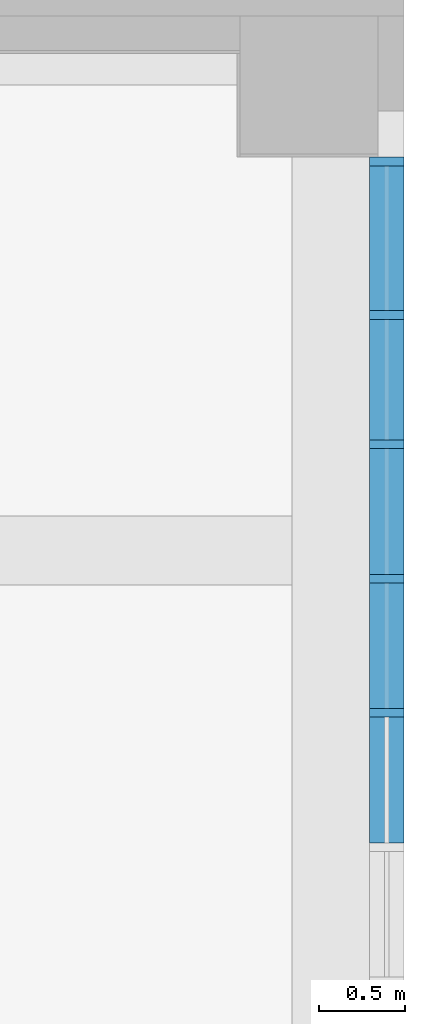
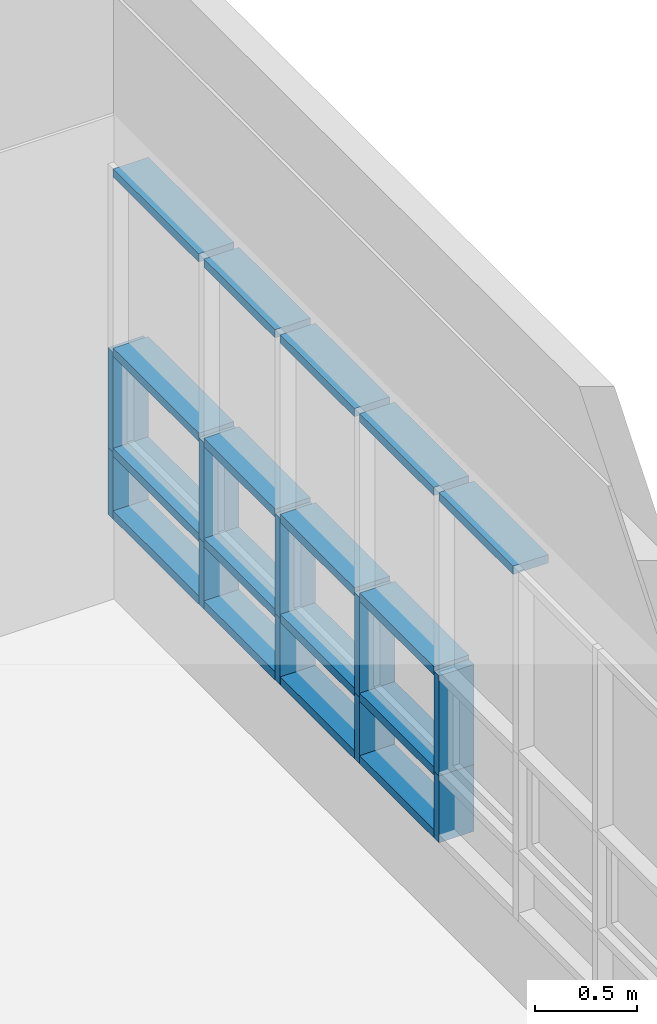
# One storey, part 22 of 81: 27 members, 1 element without a shape of its own.
"""IFC2X3 building model written with IfcOpenShell, lengths in millimetres."""

from ifc_helpers import new_model, entity, si_unit, converted_unit, derived_unit, direction, frame, origin, origin_2d_with_axis, place, context, subcontext, project, spatial, rectangle, extrude, source, transform, mapped, material, type_object, type_shapes, element, aggregate, save


model = new_model("IFC2X3")

# Units and contexts
model_context = context("Model", 3, precision=0.01, world=origin(), true_north=direction((6.123031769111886e-17, 1.0)))
body_context = subcontext(model_context, "Body", "Model", "MODEL_VIEW")
ifc_project = project(units=[si_unit("LENGTHUNIT", "METRE", prefix="MILLI"), si_unit("AREAUNIT", "SQUARE_METRE"), si_unit("VOLUMEUNIT", "CUBIC_METRE"), converted_unit("PLANEANGLEUNIT", "DEGREE", entity("IfcRatioMeasure", 0.017453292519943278), si_unit("PLANEANGLEUNIT", "RADIAN"), dimensions=[0, 0, 0, 0, 0, 0, 0]), si_unit("MASSUNIT", "GRAM", prefix="KILO"), derived_unit("MASSDENSITYUNIT", [(si_unit("MASSUNIT", "GRAM", prefix="KILO"), 1), (si_unit("LENGTHUNIT", "METRE"), -3)]), derived_unit("MOMENTOFINERTIAUNIT", [(si_unit("LENGTHUNIT", "METRE"), 4)]), si_unit("TIMEUNIT", "SECOND"), si_unit("FREQUENCYUNIT", "HERTZ"), si_unit("THERMODYNAMICTEMPERATUREUNIT", "DEGREE_CELSIUS"), derived_unit("THERMALTRANSMITTANCEUNIT", [(si_unit("MASSUNIT", "GRAM", prefix="KILO"), 1), (si_unit("THERMODYNAMICTEMPERATUREUNIT", "KELVIN"), -1), (si_unit("TIMEUNIT", "SECOND"), -3)]), derived_unit("VOLUMETRICFLOWRATEUNIT", [(si_unit("LENGTHUNIT", "METRE"), 3), (si_unit("TIMEUNIT", "SECOND"), -1)]), derived_unit("MASSFLOWRATEUNIT", [(si_unit("MASSUNIT", "GRAM", prefix="KILO"), 1), (si_unit("TIMEUNIT", "SECOND"), -1)]), derived_unit("ROTATIONALFREQUENCYUNIT", [(si_unit("TIMEUNIT", "SECOND"), -1)]), si_unit("ELECTRICCURRENTUNIT", "AMPERE"), si_unit("ELECTRICVOLTAGEUNIT", "VOLT"), si_unit("POWERUNIT", "WATT"), si_unit("FORCEUNIT", "NEWTON", prefix="KILO"), si_unit("ILLUMINANCEUNIT", "LUX"), si_unit("LUMINOUSFLUXUNIT", "LUMEN"), si_unit("LUMINOUSINTENSITYUNIT", "CANDELA"), derived_unit("USERDEFINED", [(si_unit("MASSUNIT", "GRAM", prefix="KILO"), -1), (si_unit("LENGTHUNIT", "METRE"), -2), (si_unit("TIMEUNIT", "SECOND"), 3), (si_unit("LUMINOUSFLUXUNIT", "LUMEN"), 1)]), derived_unit("SOUNDPOWERUNIT", [(si_unit("MASSUNIT", "GRAM", prefix="KILO"), 1), (si_unit("LENGTHUNIT", "METRE"), 2), (si_unit("TIMEUNIT", "SECOND"), -3)]), derived_unit("SOUNDPRESSUREUNIT", [(si_unit("MASSUNIT", "GRAM", prefix="KILO"), 1), (si_unit("LENGTHUNIT", "METRE"), -1), (si_unit("TIMEUNIT", "SECOND"), -2)]), derived_unit("LINEARVELOCITYUNIT", [(si_unit("LENGTHUNIT", "METRE"), 1), (si_unit("TIMEUNIT", "SECOND"), -1)]), si_unit("PRESSUREUNIT", "PASCAL"), derived_unit("USERDEFINED", [(si_unit("LENGTHUNIT", "METRE"), -2), (si_unit("MASSUNIT", "GRAM", prefix="KILO"), 1), (si_unit("TIMEUNIT", "SECOND"), -2)]), derived_unit("LINEARFORCEUNIT", [(si_unit("MASSUNIT", "GRAM", prefix="KILO"), 1), (si_unit("LENGTHUNIT", "METRE"), 1), (si_unit("TIMEUNIT", "SECOND"), -2), (si_unit("LENGTHUNIT", "METRE"), -1)]), derived_unit("PLANARFORCEUNIT", [(si_unit("MASSUNIT", "GRAM", prefix="KILO"), 1), (si_unit("LENGTHUNIT", "METRE"), 1), (si_unit("TIMEUNIT", "SECOND"), -2), (si_unit("LENGTHUNIT", "METRE"), -2)])], contexts=[model_context])

# Site, building, storey
site_placement = place(None, frame((-14167.972527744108, -657.2125860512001, 0.0)))
site = spatial("IfcSite", under=ifc_project, at=site_placement, Name="Default", CompositionType="ELEMENT")
building_placement = place(site_placement, origin())
building = spatial("IfcBuilding", under=site, at=building_placement, Name="Sample Building", CompositionType="ELEMENT")
storey_placement = place(building_placement, frame((0.0, 0.0, 13400.0)))
storey = spatial("IfcBuildingStorey", under=building, at=storey_placement, Name="지상 4층", CompositionType="ELEMENT", Elevation=13400.00000000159)

# Curtain wall, members
curtain_wall_type = type_object("IfcCurtainWallType", Name="커튼월:CW112-스테인리스 스틸 커튼월", PredefinedType="NOTDEFINED")
curtain_wall_placement = place(storey_placement, frame((0.0, 0.0, -13400.0)))
curtain_wall = element("IfcCurtainWall", 1, at=curtain_wall_placement, inside=storey, type_object=curtain_wall_type, Name="커튼월:CW112-스테인리스 스틸 커튼월", ObjectType="커튼월:CW112-스테인리스 스틸 커튼월")
ifc_material = material(Name="<Unnamed>")
member_type_1 = type_object("IfcMemberType", Name="직사각형 멀리언:CW200-직사각형 멀리언 50x200mm", PredefinedType="MULLION", material=ifc_material)
shared_shape_1 = source(origin(), body_context, "Body", "SweptSolid", [
    extrude(rectangle(XDim=200.0, YDim=50.0, at=origin_2d_with_axis()), frame((0.0, 0.0, -600.0), z_axis=(0.0, 0.0, 1.0), x_axis=(0.0, -1.0, 0.0)), (0.0, 0.0, 1.0), 600.0),
])
type_shapes(member_type_1, [shared_shape_1])
member_1_placement = place(curtain_wall_placement, frame((51517.96382893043, 25994.712295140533, 14400.0), z_axis=(0.0, 0.0, -1.0), x_axis=(0.0, -1.0, 0.0)))
member_1 = element("IfcMember", 2, at=member_1_placement, type_object=member_type_1, material=ifc_material, Name="직사각형 멀리언:CW200-직사각형 멀리언 50x200mm", ObjectType="직사각형 멀리언:CW200-직사각형 멀리언 50x200mm", context=body_context, shape_type="MappedRepresentation", body=[
    mapped(shared_shape_1, transform((0.0, 0.0, 0.0), scale=1.0)),
])
member_type_2 = type_object("IfcMemberType", Name="직사각형 멀리언:CW200-직사각형 멀리언 50x200mm", PredefinedType="MULLION", material=ifc_material)
shared_shape_2 = source(origin(), body_context, "Body", "SweptSolid", [
    extrude(rectangle(XDim=200.0, YDim=50.0, at=origin_2d_with_axis()), frame((-25.0, 0.0, -600.0), z_axis=(0.0, 0.0, 1.0), x_axis=(0.0, -1.0, 0.0)), (0.0, 0.0, 1.0), 599.9999999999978),
])
type_shapes(member_type_2, [shared_shape_2])
member_2_placement = place(curtain_wall_placement, frame((51517.96382893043, 28439.212704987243, 15000.0), z_axis=(0.0, 0.0, 1.0), x_axis=(0.0, 1.0, 0.0)))
member_2 = element("IfcMember", 3, at=member_2_placement, type_object=member_type_2, material=ifc_material, Name="직사각형 멀리언:CW200-직사각형 멀리언 50x200mm", ObjectType="직사각형 멀리언:CW200-직사각형 멀리언 50x200mm", context=body_context, shape_type="MappedRepresentation", body=[
    mapped(shared_shape_2, transform((0.0, 0.0, 0.0), scale=1.0)),
])
member_type_3 = type_object("IfcMemberType", Name="직사각형 멀리언:CW200-직사각형 멀리언 50x200mm", PredefinedType="MULLION", material=ifc_material)
shared_shape_3 = source(origin(), body_context, "Body", "SweptSolid", [
    extrude(rectangle(XDim=200.0, YDim=50.0, at=origin_2d_with_axis()), frame((-25.0, 0.0, -700.0), z_axis=(0.0, 0.0, 1.0), x_axis=(0.0, -1.0, 0.0)), (0.0, 0.0, 1.0), 699.999999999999),
])
type_shapes(member_type_3, [shared_shape_3])
member_3_placement = place(curtain_wall_placement, frame((51517.96382893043, 27498.712295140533, 14000.0), z_axis=(0.0, 1.0, 0.0), x_axis=(0.0, 0.0, -1.0)))
member_3 = element("IfcMember", 4, at=member_3_placement, type_object=member_type_3, material=ifc_material, Name="직사각형 멀리언:CW200-직사각형 멀리언 50x200mm", ObjectType="직사각형 멀리언:CW200-직사각형 멀리언 50x200mm", context=body_context, shape_type="MappedRepresentation", body=[
    mapped(shared_shape_3, transform((0.0, 0.0, 0.0), scale=1.0)),
])
member_type_4 = type_object("IfcMemberType", Name="직사각형 멀리언:CW200-직사각형 멀리언 50x200mm", PredefinedType="MULLION", material=ifc_material)
shared_shape_4 = source(origin(), body_context, "Body", "SweptSolid", [
    extrude(rectangle(XDim=200.0, YDim=50.0, at=origin_2d_with_axis()), frame((0.0, 0.0, -700.0), z_axis=(0.0, 0.0, 1.0), x_axis=(0.0, -1.0, 0.0)), (0.0, 0.0, 1.0), 699.9999999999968),
])
type_shapes(member_type_4, [shared_shape_4])
member_4_placement = place(curtain_wall_placement, frame((51517.96382893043, 26798.712295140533, 14400.0), z_axis=(0.0, -1.0, 0.0), x_axis=(0.0, 0.0, 1.0)))
member_4 = element("IfcMember", 5, at=member_4_placement, type_object=member_type_4, material=ifc_material, Name="직사각형 멀리언:CW200-직사각형 멀리언 50x200mm", ObjectType="직사각형 멀리언:CW200-직사각형 멀리언 50x200mm", context=body_context, shape_type="MappedRepresentation", body=[
    mapped(shared_shape_4, transform((0.0, 0.0, 0.0), scale=1.0)),
])
member_5_placement = place(curtain_wall_placement, frame((51517.96382893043, 26798.712295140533, 15000.0), z_axis=(0.0, -1.0, 0.0), x_axis=(0.0, 0.0, 1.0)))
member_5 = element("IfcMember", 6, at=member_5_placement, type_object=member_type_4, material=ifc_material, Name="직사각형 멀리언:CW200-직사각형 멀리언 50x200mm", ObjectType="직사각형 멀리언:CW200-직사각형 멀리언 50x200mm", context=body_context, shape_type="MappedRepresentation", body=[
    mapped(shared_shape_4, transform((0.0, 0.0, 0.0), scale=1.0)),
])
member_type_5 = type_object("IfcMemberType", Name="직사각형 멀리언:CW200-직사각형 멀리언 50x200mm", PredefinedType="MULLION", material=ifc_material)
shared_shape_5 = source(origin(), body_context, "Body", "SweptSolid", [
    extrude(rectangle(XDim=200.0, YDim=50.0, at=origin_2d_with_axis()), frame((0.0, 0.0, -600.0), z_axis=(0.0, 0.0, 1.0), x_axis=(0.0, -1.0, 0.0)), (0.0, 0.0, 1.0), 599.9999999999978),
])
type_shapes(member_type_5, [shared_shape_5])
member_6_placement = place(curtain_wall_placement, frame((51517.96382893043, 27523.712295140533, 14400.0), z_axis=(0.0, 0.0, -1.0), x_axis=(0.0, -1.0, 0.0)))
member_6 = element("IfcMember", 7, at=member_6_placement, type_object=member_type_5, material=ifc_material, Name="직사각형 멀리언:CW200-직사각형 멀리언 50x200mm", ObjectType="직사각형 멀리언:CW200-직사각형 멀리언 50x200mm", context=body_context, shape_type="MappedRepresentation", body=[
    mapped(shared_shape_5, transform((0.0, 0.0, 0.0), scale=1.0)),
])
member_7_placement = place(curtain_wall_placement, frame((51517.96382893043, 26773.712295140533, 14400.0), z_axis=(0.0, 0.0, -1.0), x_axis=(0.0, -1.0, 0.0)))
member_7 = element("IfcMember", 8, at=member_7_placement, type_object=member_type_5, material=ifc_material, Name="직사각형 멀리언:CW200-직사각형 멀리언 50x200mm", ObjectType="직사각형 멀리언:CW200-직사각형 멀리언 50x200mm", context=body_context, shape_type="MappedRepresentation", body=[
    mapped(shared_shape_5, transform((0.0, 0.0, 0.0), scale=1.0)),
])
member_8_placement = place(curtain_wall_placement, frame((51517.96382893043, 25215.712295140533, 14400.0), z_axis=(0.0, 0.0, -1.0), x_axis=(0.0, -1.0, 0.0)))
member_8 = element("IfcMember", 9, at=member_8_placement, type_object=member_type_5, material=ifc_material, Name="직사각형 멀리언:CW200-직사각형 멀리언 50x200mm", ObjectType="직사각형 멀리언:CW200-직사각형 멀리언 50x200mm", context=body_context, shape_type="MappedRepresentation", body=[
    mapped(shared_shape_5, transform((0.0, 0.0, 0.0), scale=1.0)),
])
member_type_6 = type_object("IfcMemberType", Name="직사각형 멀리언:CW200-직사각형 멀리언 50x200mm", PredefinedType="MULLION", material=ifc_material)
shared_shape_6 = source(origin(), body_context, "Body", "SweptSolid", [
    extrude(rectangle(XDim=200.0, YDim=50.0, at=origin_2d_with_axis()), frame((-25.0, 0.0, -700.0), z_axis=(0.0, 0.0, 1.0), x_axis=(0.0, -1.0, 0.0)), (0.0, 0.0, 1.0), 699.9999999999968),
])
type_shapes(member_type_6, [shared_shape_6])
member_9_placement = place(curtain_wall_placement, frame((51517.96382893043, 26798.712295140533, 16100.0), z_axis=(0.0, -1.0, 0.0), x_axis=(0.0, 0.0, 1.0)))
member_9 = element("IfcMember", 10, at=member_9_placement, type_object=member_type_6, material=ifc_material, Name="직사각형 멀리언:CW200-직사각형 멀리언 50x200mm", ObjectType="직사각형 멀리언:CW200-직사각형 멀리언 50x200mm", context=body_context, shape_type="MappedRepresentation", body=[
    mapped(shared_shape_6, transform((0.0, 0.0, 0.0), scale=1.0)),
])
member_type_7 = type_object("IfcMemberType", Name="직사각형 멀리언:CW200-직사각형 멀리언 50x200mm", PredefinedType="MULLION", material=ifc_material)
shared_shape_7 = source(origin(), body_context, "Body", "SweptSolid", [
    extrude(rectangle(XDim=200.0, YDim=50.0, at=origin_2d_with_axis()), frame((-25.0, 0.0, -729.0), z_axis=(0.0, 0.0, 1.0), x_axis=(0.0, -1.0, 0.0)), (0.0, 0.0, 1.0), 729.000000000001),
])
type_shapes(member_type_7, [shared_shape_7])
member_10_placement = place(curtain_wall_placement, frame((51517.96382893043, 26748.712295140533, 14000.0), z_axis=(0.0, 1.0, 0.0), x_axis=(0.0, 0.0, -1.0)))
member_10 = element("IfcMember", 11, at=member_10_placement, type_object=member_type_7, material=ifc_material, Name="직사각형 멀리언:CW200-직사각형 멀리언 50x200mm", ObjectType="직사각형 멀리언:CW200-직사각형 멀리언 50x200mm", context=body_context, shape_type="MappedRepresentation", body=[
    mapped(shared_shape_7, transform((0.0, 0.0, 0.0), scale=1.0)),
])
member_type_8 = type_object("IfcMemberType", Name="직사각형 멀리언:CW200-직사각형 멀리언 50x200mm", PredefinedType="MULLION", material=ifc_material)
shared_shape_8 = source(origin(), body_context, "Body", "SweptSolid", [
    extrude(rectangle(XDim=200.0, YDim=50.0, at=origin_2d_with_axis()), frame((0.0, 0.0, -729.0), z_axis=(0.0, 0.0, 1.0), x_axis=(0.0, -1.0, 0.0)), (0.0, 0.0, 1.0), 728.9999999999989),
])
type_shapes(member_type_8, [shared_shape_8])
member_11_placement = place(curtain_wall_placement, frame((51517.96382893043, 26019.712295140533, 14400.0), z_axis=(0.0, -1.0, 0.0), x_axis=(0.0, 0.0, 1.0)))
member_11 = element("IfcMember", 12, at=member_11_placement, type_object=member_type_8, material=ifc_material, Name="직사각형 멀리언:CW200-직사각형 멀리언 50x200mm", ObjectType="직사각형 멀리언:CW200-직사각형 멀리언 50x200mm", context=body_context, shape_type="MappedRepresentation", body=[
    mapped(shared_shape_8, transform((0.0, 0.0, 0.0), scale=1.0)),
])
member_12_placement = place(curtain_wall_placement, frame((51517.96382893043, 26019.712295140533, 15000.0), z_axis=(0.0, -1.0, 0.0), x_axis=(0.0, 0.0, 1.0)))
member_12 = element("IfcMember", 13, at=member_12_placement, type_object=member_type_8, material=ifc_material, Name="직사각형 멀리언:CW200-직사각형 멀리언 50x200mm", ObjectType="직사각형 멀리언:CW200-직사각형 멀리언 50x200mm", context=body_context, shape_type="MappedRepresentation", body=[
    mapped(shared_shape_8, transform((0.0, 0.0, 0.0), scale=1.0)),
])
member_type_9 = type_object("IfcMemberType", Name="직사각형 멀리언:CW200-직사각형 멀리언 50x200mm", PredefinedType="MULLION", material=ifc_material)
shared_shape_9 = source(origin(), body_context, "Body", "SweptSolid", [
    extrude(rectangle(XDim=200.0, YDim=50.0, at=origin_2d_with_axis()), frame((-25.0, 0.0, -729.0), z_axis=(0.0, 0.0, 1.0), x_axis=(0.0, -1.0, 0.0)), (0.0, 0.0, 1.0), 728.9999999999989),
])
type_shapes(member_type_9, [shared_shape_9])
member_13_placement = place(curtain_wall_placement, frame((51517.96382893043, 25240.712295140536, 16100.0), z_axis=(0.0, -1.0, 0.0), x_axis=(0.0, 0.0, 1.0)))
member_13 = element("IfcMember", 14, at=member_13_placement, type_object=member_type_9, material=ifc_material, Name="직사각형 멀리언:CW200-직사각형 멀리언 50x200mm", ObjectType="직사각형 멀리언:CW200-직사각형 멀리언 50x200mm", context=body_context, shape_type="MappedRepresentation", body=[
    mapped(shared_shape_9, transform((0.0, 0.0, 0.0), scale=1.0)),
])
member_14_placement = place(curtain_wall_placement, frame((51517.96382893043, 24461.71229514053, 16100.0), z_axis=(0.0, -1.0, 0.0), x_axis=(0.0, 0.0, 1.0)))
member_14 = element("IfcMember", 15, at=member_14_placement, type_object=member_type_9, material=ifc_material, Name="직사각형 멀리언:CW200-직사각형 멀리언 50x200mm", ObjectType="직사각형 멀리언:CW200-직사각형 멀리언 50x200mm", context=body_context, shape_type="MappedRepresentation", body=[
    mapped(shared_shape_9, transform((0.0, 0.0, 0.0), scale=1.0)),
])
member_type_10 = type_object("IfcMemberType", Name="직사각형 멀리언:CW200-직사각형 멀리언 50x200mm", PredefinedType="MULLION", material=ifc_material)
shared_shape_10 = source(origin(), body_context, "Body", "SweptSolid", [
    extrude(rectangle(XDim=200.0, YDim=50.0, at=origin_2d_with_axis()), frame((-25.0, 0.0, -729.0), z_axis=(0.0, 0.0, 1.0), x_axis=(0.0, -1.0, 0.0)), (0.0, 0.0, 1.0), 729.000000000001),
])
type_shapes(member_type_10, [shared_shape_10])
member_15_placement = place(curtain_wall_placement, frame((51517.96382893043, 25969.712295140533, 14000.0), z_axis=(0.0, 1.0, 0.0), x_axis=(0.0, 0.0, -1.0)))
member_15 = element("IfcMember", 16, at=member_15_placement, type_object=member_type_10, material=ifc_material, Name="직사각형 멀리언:CW200-직사각형 멀리언 50x200mm", ObjectType="직사각형 멀리언:CW200-직사각형 멀리언 50x200mm", context=body_context, shape_type="MappedRepresentation", body=[
    mapped(shared_shape_10, transform((0.0, 0.0, 0.0), scale=1.0)),
])
member_type_11 = type_object("IfcMemberType", Name="직사각형 멀리언:CW200-직사각형 멀리언 50x200mm", PredefinedType="MULLION", material=ifc_material)
shared_shape_11 = source(origin(), body_context, "Body", "SweptSolid", [
    extrude(rectangle(XDim=200.0, YDim=50.0, at=origin_2d_with_axis()), frame((0.0, 0.0, -729.0), z_axis=(0.0, 0.0, 1.0), x_axis=(0.0, -1.0, 0.0)), (0.0, 0.0, 1.0), 728.9999999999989),
])
type_shapes(member_type_11, [shared_shape_11])
member_16_placement = place(curtain_wall_placement, frame((51517.96382893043, 25240.71229514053, 14400.0), z_axis=(0.0, -1.0, 0.0), x_axis=(0.0, 0.0, 1.0)))
member_16 = element("IfcMember", 17, at=member_16_placement, type_object=member_type_11, material=ifc_material, Name="직사각형 멀리언:CW200-직사각형 멀리언 50x200mm", ObjectType="직사각형 멀리언:CW200-직사각형 멀리언 50x200mm", context=body_context, shape_type="MappedRepresentation", body=[
    mapped(shared_shape_11, transform((0.0, 0.0, 0.0), scale=1.0)),
])
member_17_placement = place(curtain_wall_placement, frame((51517.96382893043, 25240.71229514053, 15000.0), z_axis=(0.0, -1.0, 0.0), x_axis=(0.0, 0.0, 1.0)))
member_17 = element("IfcMember", 18, at=member_17_placement, type_object=member_type_11, material=ifc_material, Name="직사각형 멀리언:CW200-직사각형 멀리언 50x200mm", ObjectType="직사각형 멀리언:CW200-직사각형 멀리언 50x200mm", context=body_context, shape_type="MappedRepresentation", body=[
    mapped(shared_shape_11, transform((0.0, 0.0, 0.0), scale=1.0)),
])
member_type_12 = type_object("IfcMemberType", Name="직사각형 멀리언:CW200-직사각형 멀리언 50x200mm", PredefinedType="MULLION", material=ifc_material)
shared_shape_12 = source(origin(), body_context, "Body", "SweptSolid", [
    extrude(rectangle(XDim=200.0, YDim=50.0, at=origin_2d_with_axis()), frame((-25.0, 0.0, -729.0), z_axis=(0.0, 0.0, 1.0), x_axis=(0.0, -1.0, 0.0)), (0.0, 0.0, 1.0), 728.9999999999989),
])
type_shapes(member_type_12, [shared_shape_12])
member_18_placement = place(curtain_wall_placement, frame((51517.96382893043, 26019.712295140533, 16100.0), z_axis=(0.0, -1.0, 0.0), x_axis=(0.0, 0.0, 1.0)))
member_18 = element("IfcMember", 19, at=member_18_placement, type_object=member_type_12, material=ifc_material, Name="직사각형 멀리언:CW200-직사각형 멀리언 50x200mm", ObjectType="직사각형 멀리언:CW200-직사각형 멀리언 50x200mm", context=body_context, shape_type="MappedRepresentation", body=[
    mapped(shared_shape_12, transform((0.0, 0.0, 0.0), scale=1.0)),
])
member_type_13 = type_object("IfcMemberType", Name="직사각형 멀리언:CW200-직사각형 멀리언 50x200mm", PredefinedType="MULLION", material=ifc_material)
shared_shape_13 = source(origin(), body_context, "Body", "SweptSolid", [
    extrude(rectangle(XDim=200.0, YDim=50.0, at=origin_2d_with_axis()), frame((-25.0, 0.0, -840.5004098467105), z_axis=(0.0, 0.0, 1.0), x_axis=(0.0, -1.0, 0.0)), (0.0, 0.0, 1.0), 840.5004098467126),
])
type_shapes(member_type_13, [shared_shape_13])
member_19_placement = place(curtain_wall_placement, frame((51517.96382893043, 28389.212704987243, 14000.0), z_axis=(0.0, 1.0, 0.0), x_axis=(0.0, 0.0, -1.0)))
member_19 = element("IfcMember", 20, at=member_19_placement, type_object=member_type_13, material=ifc_material, Name="직사각형 멀리언:CW200-직사각형 멀리언 50x200mm", ObjectType="직사각형 멀리언:CW200-직사각형 멀리언 50x200mm", context=body_context, shape_type="MappedRepresentation", body=[
    mapped(shared_shape_13, transform((0.0, 0.0, 0.0), scale=1.0)),
])
member_type_14 = type_object("IfcMemberType", Name="직사각형 멀리언:CW200-직사각형 멀리언 50x200mm", PredefinedType="MULLION", material=ifc_material)
shared_shape_14 = source(origin(), body_context, "Body", "SweptSolid", [
    extrude(rectangle(XDim=200.0, YDim=50.0, at=origin_2d_with_axis()), frame((-25.0, 0.0, -400.0), z_axis=(0.0, 0.0, 1.0), x_axis=(0.0, -1.0, 0.0)), (0.0, 0.0, 1.0), 399.9999999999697),
])
type_shapes(member_type_14, [shared_shape_14])
member_20_placement = place(curtain_wall_placement, frame((51517.96382893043, 28439.212704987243, 14400.0), z_axis=(0.0, 0.0, 1.0), x_axis=(0.0, 1.0, 0.0)))
member_20 = element("IfcMember", 21, at=member_20_placement, type_object=member_type_14, material=ifc_material, Name="직사각형 멀리언:CW200-직사각형 멀리언 50x200mm", ObjectType="직사각형 멀리언:CW200-직사각형 멀리언 50x200mm", context=body_context, shape_type="MappedRepresentation", body=[
    mapped(shared_shape_14, transform((0.0, 0.0, 0.0), scale=1.0)),
])
member_type_15 = type_object("IfcMemberType", Name="직사각형 멀리언:CW200-직사각형 멀리언 50x200mm", PredefinedType="MULLION", material=ifc_material)
shared_shape_15 = source(origin(), body_context, "Body", "SweptSolid", [
    extrude(rectangle(XDim=200.0, YDim=50.0, at=origin_2d_with_axis()), frame((-25.0, 0.0, -840.5004098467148), z_axis=(0.0, 0.0, 1.0), x_axis=(0.0, -1.0, 0.0)), (0.0, 0.0, 1.0), 840.5004098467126),
])
type_shapes(member_type_15, [shared_shape_15])
member_21_placement = place(curtain_wall_placement, frame((51517.96382893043, 27548.71229514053, 16100.0), z_axis=(0.0, -1.0, 0.0), x_axis=(0.0, 0.0, 1.0)))
member_21 = element("IfcMember", 22, at=member_21_placement, type_object=member_type_15, material=ifc_material, Name="직사각형 멀리언:CW200-직사각형 멀리언 50x200mm", ObjectType="직사각형 멀리언:CW200-직사각형 멀리언 50x200mm", context=body_context, shape_type="MappedRepresentation", body=[
    mapped(shared_shape_15, transform((0.0, 0.0, 0.0), scale=1.0)),
])
member_type_16 = type_object("IfcMemberType", Name="직사각형 멀리언:CW200-직사각형 멀리언 50x200mm", PredefinedType="MULLION", material=ifc_material)
shared_shape_16 = source(origin(), body_context, "Body", "SweptSolid", [
    extrude(rectangle(XDim=200.0, YDim=50.0, at=origin_2d_with_axis()), frame((0.0, 0.0, -400.0), z_axis=(0.0, 0.0, 1.0), x_axis=(0.0, -1.0, 0.0)), (0.0, 0.0, 1.0), 399.9999999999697),
])
type_shapes(member_type_16, [shared_shape_16])
member_22_placement = place(curtain_wall_placement, frame((51517.96382893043, 27523.712295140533, 14000.0), z_axis=(0.0, 0.0, -1.0), x_axis=(0.0, -1.0, 0.0)))
member_22 = element("IfcMember", 23, at=member_22_placement, type_object=member_type_16, material=ifc_material, Name="직사각형 멀리언:CW200-직사각형 멀리언 50x200mm", ObjectType="직사각형 멀리언:CW200-직사각형 멀리언 50x200mm", context=body_context, shape_type="MappedRepresentation", body=[
    mapped(shared_shape_16, transform((0.0, 0.0, 0.0), scale=1.0)),
])
member_23_placement = place(curtain_wall_placement, frame((51517.96382893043, 26773.712295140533, 14000.0), z_axis=(0.0, 0.0, -1.0), x_axis=(0.0, -1.0, 0.0)))
member_23 = element("IfcMember", 24, at=member_23_placement, type_object=member_type_16, material=ifc_material, Name="직사각형 멀리언:CW200-직사각형 멀리언 50x200mm", ObjectType="직사각형 멀리언:CW200-직사각형 멀리언 50x200mm", context=body_context, shape_type="MappedRepresentation", body=[
    mapped(shared_shape_16, transform((0.0, 0.0, 0.0), scale=1.0)),
])
member_24_placement = place(curtain_wall_placement, frame((51517.96382893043, 25215.712295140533, 14000.0), z_axis=(0.0, 0.0, -1.0), x_axis=(0.0, -1.0, 0.0)))
member_24 = element("IfcMember", 25, at=member_24_placement, type_object=member_type_16, material=ifc_material, Name="직사각형 멀리언:CW200-직사각형 멀리언 50x200mm", ObjectType="직사각형 멀리언:CW200-직사각형 멀리언 50x200mm", context=body_context, shape_type="MappedRepresentation", body=[
    mapped(shared_shape_16, transform((0.0, 0.0, 0.0), scale=1.0)),
])
member_type_17 = type_object("IfcMemberType", Name="직사각형 멀리언:CW200-직사각형 멀리언 50x200mm", PredefinedType="MULLION", material=ifc_material)
shared_shape_17 = source(origin(), body_context, "Body", "SweptSolid", [
    extrude(rectangle(XDim=200.0, YDim=50.0, at=origin_2d_with_axis()), frame((0.0, 0.0, -840.5004098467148), z_axis=(0.0, 0.0, 1.0), x_axis=(0.0, -1.0, 0.0)), (0.0, 0.0, 1.0), 840.5004098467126),
])
type_shapes(member_type_17, [shared_shape_17])
member_25_placement = place(curtain_wall_placement, frame((51517.96382893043, 27548.71229514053, 15000.0), z_axis=(0.0, -1.0, 0.0), x_axis=(0.0, 0.0, 1.0)))
member_25 = element("IfcMember", 26, at=member_25_placement, type_object=member_type_17, material=ifc_material, Name="직사각형 멀리언:CW200-직사각형 멀리언 50x200mm", ObjectType="직사각형 멀리언:CW200-직사각형 멀리언 50x200mm", context=body_context, shape_type="MappedRepresentation", body=[
    mapped(shared_shape_17, transform((0.0, 0.0, 0.0), scale=1.0)),
])
member_26_placement = place(curtain_wall_placement, frame((51517.96382893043, 27548.71229514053, 14400.0), z_axis=(0.0, -1.0, 0.0), x_axis=(0.0, 0.0, 1.0)))
member_26 = element("IfcMember", 27, at=member_26_placement, type_object=member_type_17, material=ifc_material, Name="직사각형 멀리언:CW200-직사각형 멀리언 50x200mm", ObjectType="직사각형 멀리언:CW200-직사각형 멀리언 50x200mm", context=body_context, shape_type="MappedRepresentation", body=[
    mapped(shared_shape_17, transform((0.0, 0.0, 0.0), scale=1.0)),
])
member_type_18 = type_object("IfcMemberType", Name="직사각형 멀리언:CW200-직사각형 멀리언 50x200mm", PredefinedType="MULLION", material=ifc_material)
shared_shape_18 = source(origin(), body_context, "Body", "SweptSolid", [
    extrude(rectangle(XDim=200.0, YDim=50.0, at=origin_2d_with_axis()), frame((0.0, 0.0, -400.0), z_axis=(0.0, 0.0, 1.0), x_axis=(0.0, -1.0, 0.0)), (0.0, 0.0, 1.0), 399.9999999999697),
])
type_shapes(member_type_18, [shared_shape_18])
member_27_placement = place(curtain_wall_placement, frame((51517.96382893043, 25994.712295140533, 14000.0), z_axis=(0.0, 0.0, -1.0), x_axis=(0.0, -1.0, 0.0)))
member_27 = element("IfcMember", 28, at=member_27_placement, type_object=member_type_18, material=ifc_material, Name="직사각형 멀리언:CW200-직사각형 멀리언 50x200mm", ObjectType="직사각형 멀리언:CW200-직사각형 멀리언 50x200mm", context=body_context, shape_type="MappedRepresentation", body=[
    mapped(shared_shape_18, transform((0.0, 0.0, 0.0), scale=1.0)),
])
aggregate(curtain_wall, [member_19, member_2, member_20, member_21, member_3, member_4, member_5, member_22, member_6, member_9, member_10, member_11, member_12, member_23, member_7, member_13, member_24, member_8, member_14, member_25, member_26, member_15, member_16, member_17, member_18, member_27, member_1])

save(model, "model.ifc")
